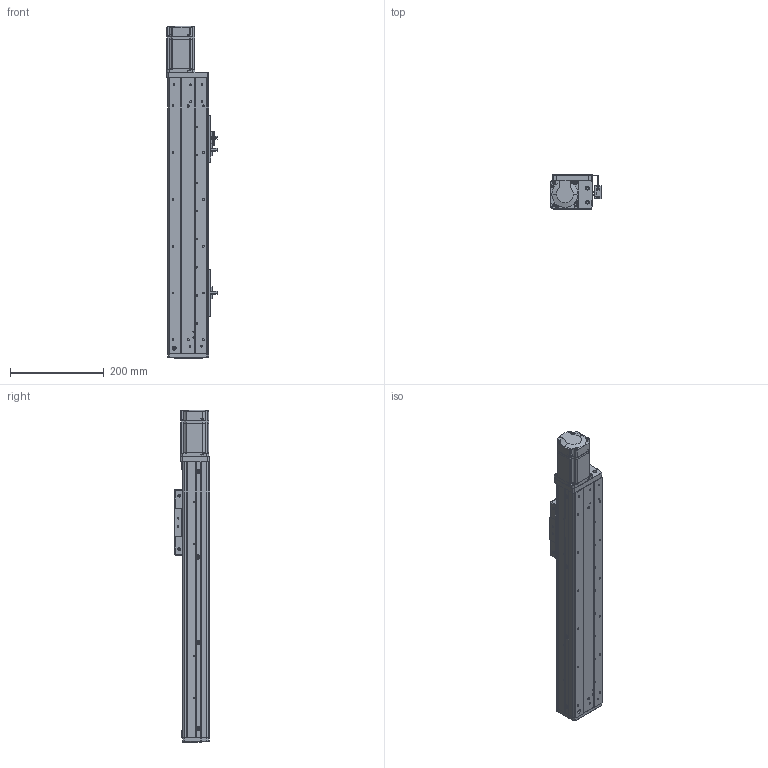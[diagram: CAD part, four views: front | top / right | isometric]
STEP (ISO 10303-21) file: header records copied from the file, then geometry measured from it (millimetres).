
FILE_DESCRIPTION (( 'STEP AP203' ), '1' );
FILE_NAME ('RY80F-L1610-300-MK.SLDASM_350.step', '2021-03-02T03:18:46', ( '盈信电脑' ), ( '东莞市道滘镇水果街19号' ), 'SwSTEP 2.0', 'SolidWorks 2012', '' );
FILE_SCHEMA (( 'CONFIG_CONTROL_DESIGN' ));
Products named in the file (16): 覜茼ん672; RY80F-L1610-300-MK.SLDASM_350; RY80俋离覜茼え; 滅袉蝶18-24; 侂狟200W萇儂; 1; 672嫖萇羲壽假蚾釱; 蚥薯蝶紫輸; RY80F-詩湍揤踡輸; RY80F-綴裔啣(臏璃ㄘ; RY80F-佪裝眻蟀ヶ裔啣(200W PCD70 M4); RY80F-滅鳥裔啣; RY80F-300-祥凄詩湍-MK_350; RY80F-丝杆铝滑块(16丝杆）; RY80F-300丝杆直连型材盖板_350; RY80F-丝杆直连型材底座_350
Assembly tree (21 placements, depth 3):
  RY80F-L1610-300-MK.SLDASM_350
    RY80F-丝杆直连型材底座_350
    RY80F-300丝杆直连型材盖板_350  x2
    RY80F-丝杆铝滑块(16丝杆）
    RY80F-滅鳥裔啣
    RY80F-300-祥凄詩湍-MK_350
    RY80F-佪裝眻蟀ヶ裔啣(200W PCD70 M4)
    RY80F-詩湍揤踡輸  x2
    RY80F-綴裔啣(臏璃ㄘ
    672嫖萇羲壽假蚾釱  x2
    蚥薯蝶紫輸
    滅袉蝶18-24  x2
    侂狟200W萇儂
      1
    RY80俋离覜茼え
    覜茼ん672  x3
Bounding box: 107.2 x 75 x 710 mm (x, y, z)
Volume: 1503053.2 mm3; surface area: 563384.5 mm2
Topology: 20 solids, 20 shells, 1670 faces, 4593 edges, 2994 vertices
Faces by surface type: plane 801, cylinder 742, cone 109, bspline 18
Entity records: 47565 total; most frequent: CARTESIAN_POINT 9959, DIRECTION 7499, ORIENTED_EDGE 7458, EDGE_CURVE 3729, AXIS2_PLACEMENT_3D 2632, VERTEX_POINT 2446, LINE 2235, VECTOR 2235
